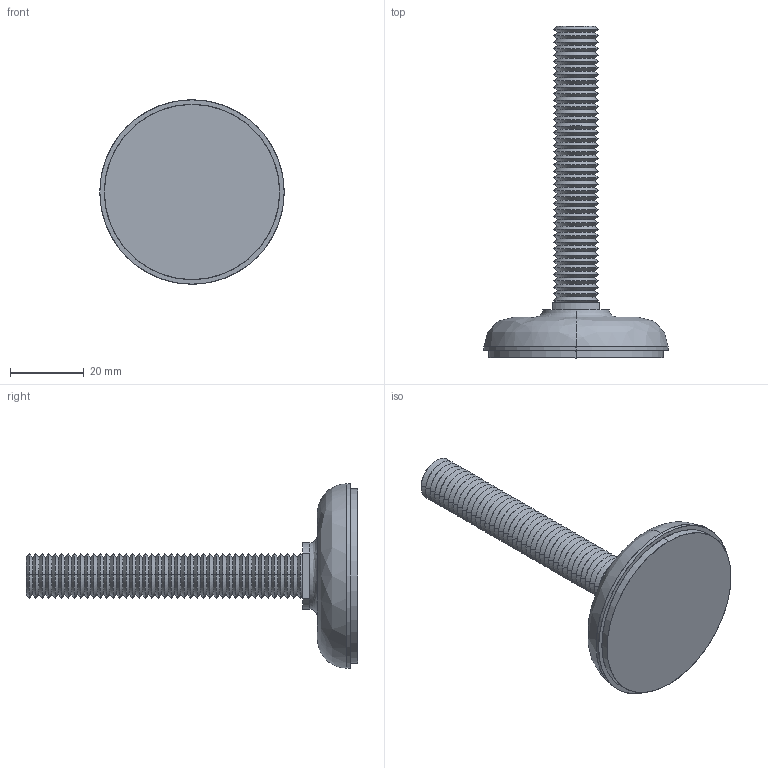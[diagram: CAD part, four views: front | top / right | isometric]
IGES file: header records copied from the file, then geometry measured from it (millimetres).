
Start section: SolidWorks IGES file using analytic representation for surfaces
Global section: file name: C:\Documents and Settings\IANO\Desktop\Temp File\Process pending\EXISTING\34780_v2\34780_v2_20170626_IGES\34780.W0121.igs; native system: SolidWorks 2009; preprocessor: SolidWorks 2009; author: IANO; date: 170626.122353; units: millimetre
Bounding box: 50 x 90 x 50 mm (x, y, z)
Surface area: 19329.4 mm2 (no closed solid volume)
Topology: 0 solids, 0 shells, 236 faces, 1858 edges, 1858 vertices
Faces by surface type: revolution 208, bspline 28
